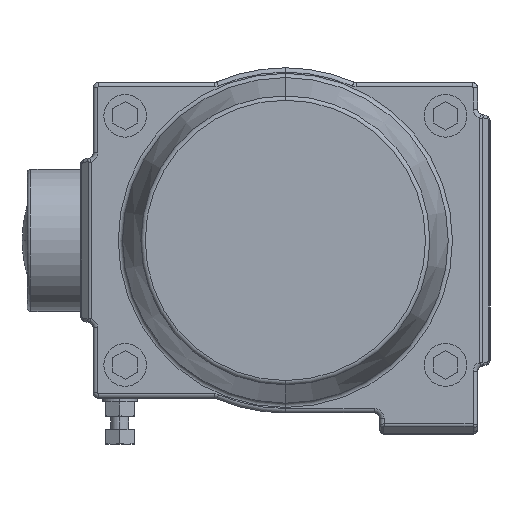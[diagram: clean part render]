
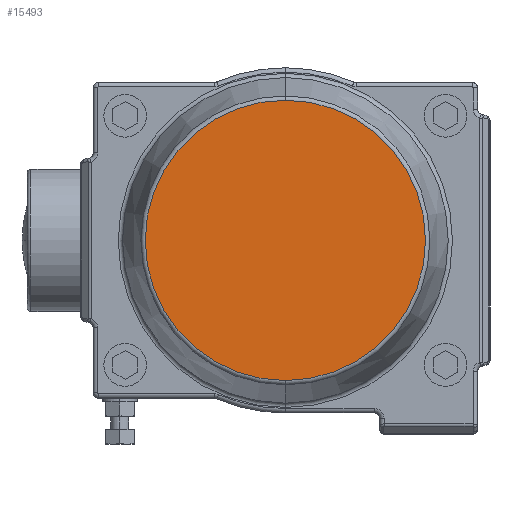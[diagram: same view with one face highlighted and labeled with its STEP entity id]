
A CAD part, left-side view. The second image highlights one B-rep face of the part: STEP entity #15493.
In plain terms, the highlighted planar face has unit normal (-1, 0, 0).
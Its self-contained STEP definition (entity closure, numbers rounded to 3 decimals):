
#685 = DIRECTION ( 'NONE',  ( 0., 0., 1. ) ) ;
#923 = CIRCLE ( 'NONE', #1398, 78.764 ) ;
#1398 = AXIS2_PLACEMENT_3D ( 'NONE', #1977, #13755, #11244 ) ;
#1593 = EDGE_CURVE ( 'NONE', #9909, #14010, #3358, .T. ) ;
#1977 = CARTESIAN_POINT ( 'NONE',  ( -264., 0., 0. ) ) ;
#2589 = DIRECTION ( 'NONE',  ( -1., 0., 0. ) ) ;
#3199 = CARTESIAN_POINT ( 'NONE',  ( -264., 0., -78.764 ) ) ;
#3358 = CIRCLE ( 'NONE', #15735, 78.764 ) ;
#4411 = CARTESIAN_POINT ( 'NONE',  ( -264., 0., 78.764 ) ) ;
#5404 = ORIENTED_EDGE ( 'NONE', *, *, #10701, .T. ) ;
#7778 = DIRECTION ( 'NONE',  ( 0., 0., 1. ) ) ;
#8058 = EDGE_LOOP ( 'NONE', ( #8326, #5404 ) ) ;
#8326 = ORIENTED_EDGE ( 'NONE', *, *, #1593, .T. ) ;
#9909 = VERTEX_POINT ( 'NONE', #4411 ) ;
#10701 = EDGE_CURVE ( 'NONE', #14010, #9909, #923, .T. ) ;
#11244 = DIRECTION ( 'NONE',  ( 0., 0., 1. ) ) ;
#11543 = CARTESIAN_POINT ( 'NONE',  ( -264., 0., 0. ) ) ;
#11551 = FACE_OUTER_BOUND ( 'NONE', #8058, .T. ) ;
#11603 = PLANE ( 'NONE',  #13032 ) ;
#13032 = AXIS2_PLACEMENT_3D ( 'NONE', #11543, #2589, #7778 ) ;
#13755 = DIRECTION ( 'NONE',  ( -1., 0., 0. ) ) ;
#14010 = VERTEX_POINT ( 'NONE', #3199 ) ;
#14914 = DIRECTION ( 'NONE',  ( -1., 0., 0. ) ) ;
#15493 = ADVANCED_FACE ( 'NONE', ( #11551 ), #11603, .T. ) ;
#15735 = AXIS2_PLACEMENT_3D ( 'NONE', #16277, #14914, #685 ) ;
#16277 = CARTESIAN_POINT ( 'NONE',  ( -264., 0., 0. ) ) ;
